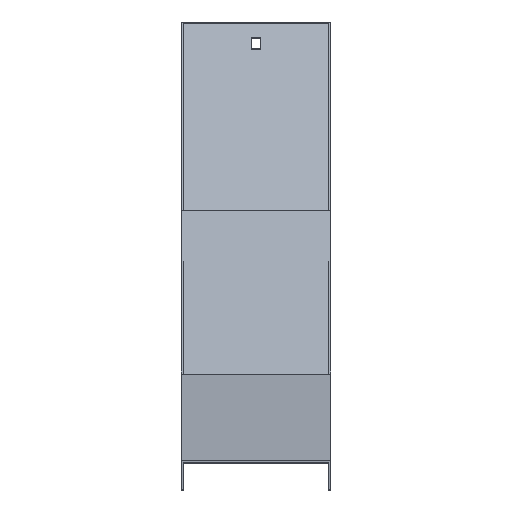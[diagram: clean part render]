
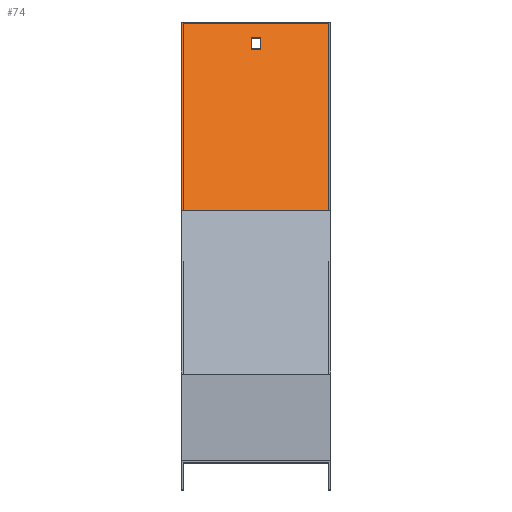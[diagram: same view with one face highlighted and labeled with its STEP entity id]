
A CAD part, top view. The second image highlights one B-rep face of the part: STEP entity #74.
In plain terms, the highlighted planar face has unit normal (0, 0.5, 0.866).
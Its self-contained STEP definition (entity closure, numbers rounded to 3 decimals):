
#2 = VECTOR ( 'NONE', #848, 1000. ) ;
#6 = CARTESIAN_POINT ( 'NONE',  ( 51.5, 173.228, -449.839 ) ) ;
#8 = LINE ( 'NONE', #311, #499 ) ;
#16 = CARTESIAN_POINT ( 'NONE',  ( -51.5, 173.228, -449.839 ) ) ;
#19 = EDGE_CURVE ( 'NONE', #793, #835, #804, .T. ) ;
#29 = DIRECTION ( 'NONE',  ( 0., -0.866, 0.5 ) ) ;
#39 = ORIENTED_EDGE ( 'NONE', *, *, #647, .F. ) ;
#42 = VERTEX_POINT ( 'NONE', #433 ) ;
#51 = VECTOR ( 'NONE', #196, 1000. ) ;
#74 = ADVANCED_FACE ( 'NONE', ( #315, #940 ), #616, .T. ) ;
#91 = DIRECTION ( 'NONE',  ( -1., 0., 0. ) ) ;
#93 = LINE ( 'NONE', #390, #379 ) ;
#98 = LINE ( 'NONE', #779, #2 ) ;
#109 = LINE ( 'NONE', #640, #475 ) ;
#113 = CARTESIAN_POINT ( 'NONE',  ( 51.5, 173.228, -449.839 ) ) ;
#118 = CARTESIAN_POINT ( 'NONE',  ( 3.25, 284.772, -514.239 ) ) ;
#124 = CARTESIAN_POINT ( 'NONE',  ( 3.25, 284.772, -514.239 ) ) ;
#175 = DIRECTION ( 'NONE',  ( 0., -0.866, 0.5 ) ) ;
#196 = DIRECTION ( 'NONE',  ( 0., 0.866, -0.5 ) ) ;
#241 = EDGE_CURVE ( 'NONE', #464, #966, #736, .T. ) ;
#311 = CARTESIAN_POINT ( 'NONE',  ( 3.25, 292.566, -518.739 ) ) ;
#315 = FACE_BOUND ( 'NONE', #571, .T. ) ;
#328 = DIRECTION ( 'NONE',  ( 1., 0., 0. ) ) ;
#334 = VECTOR ( 'NONE', #328, 1000. ) ;
#347 = ORIENTED_EDGE ( 'NONE', *, *, #894, .F. ) ;
#379 = VECTOR ( 'NONE', #710, 1000. ) ;
#390 = CARTESIAN_POINT ( 'NONE',  ( 51.5, 173.228, -449.839 ) ) ;
#433 = CARTESIAN_POINT ( 'NONE',  ( 51.5, 302.958, -524.739 ) ) ;
#464 = VERTEX_POINT ( 'NONE', #16 ) ;
#466 = EDGE_CURVE ( 'NONE', #844, #42, #93, .T. ) ;
#470 = CARTESIAN_POINT ( 'NONE',  ( 51.5, 173.228, -449.839 ) ) ;
#475 = VECTOR ( 'NONE', #29, 1000. ) ;
#477 = ORIENTED_EDGE ( 'NONE', *, *, #550, .T. ) ;
#498 = CARTESIAN_POINT ( 'NONE',  ( -51.5, 173.228, -449.839 ) ) ;
#499 = VECTOR ( 'NONE', #91, 1000. ) ;
#545 = VERTEX_POINT ( 'NONE', #620 ) ;
#550 = EDGE_CURVE ( 'NONE', #42, #966, #98, .T. ) ;
#571 = EDGE_LOOP ( 'NONE', ( #891, #347, #888, #982 ) ) ;
#616 = PLANE ( 'NONE',  #743 ) ;
#620 = CARTESIAN_POINT ( 'NONE',  ( -3.25, 284.772, -514.239 ) ) ;
#640 = CARTESIAN_POINT ( 'NONE',  ( -3.25, 284.772, -514.239 ) ) ;
#645 = CARTESIAN_POINT ( 'NONE',  ( -3.25, 292.566, -518.739 ) ) ;
#647 = EDGE_CURVE ( 'NONE', #844, #464, #782, .T. ) ;
#670 = VECTOR ( 'NONE', #813, 1000. ) ;
#708 = DIRECTION ( 'NONE',  ( -1., 0., 0. ) ) ;
#710 = DIRECTION ( 'NONE',  ( 0., 0.866, -0.5 ) ) ;
#725 = EDGE_CURVE ( 'NONE', #835, #895, #8, .T. ) ;
#736 = LINE ( 'NONE', #498, #670 ) ;
#743 = AXIS2_PLACEMENT_3D ( 'NONE', #6, #860, #175 ) ;
#766 = ORIENTED_EDGE ( 'NONE', *, *, #466, .T. ) ;
#769 = EDGE_LOOP ( 'NONE', ( #933, #39, #766, #477 ) ) ;
#779 = CARTESIAN_POINT ( 'NONE',  ( 51.5, 302.958, -524.739 ) ) ;
#782 = LINE ( 'NONE', #470, #832 ) ;
#786 = CARTESIAN_POINT ( 'NONE',  ( 3.25, 284.772, -514.239 ) ) ;
#793 = VERTEX_POINT ( 'NONE', #786 ) ;
#797 = CARTESIAN_POINT ( 'NONE',  ( 3.25, 292.566, -518.739 ) ) ;
#804 = LINE ( 'NONE', #118, #51 ) ;
#813 = DIRECTION ( 'NONE',  ( 0., 0.866, -0.5 ) ) ;
#832 = VECTOR ( 'NONE', #708, 1000. ) ;
#833 = CARTESIAN_POINT ( 'NONE',  ( -51.5, 302.958, -524.739 ) ) ;
#835 = VERTEX_POINT ( 'NONE', #797 ) ;
#844 = VERTEX_POINT ( 'NONE', #113 ) ;
#848 = DIRECTION ( 'NONE',  ( -1., 0., 0. ) ) ;
#860 = DIRECTION ( 'NONE',  ( 0., 0.5, 0.866 ) ) ;
#880 = LINE ( 'NONE', #124, #334 ) ;
#888 = ORIENTED_EDGE ( 'NONE', *, *, #930, .F. ) ;
#891 = ORIENTED_EDGE ( 'NONE', *, *, #19, .F. ) ;
#894 = EDGE_CURVE ( 'NONE', #545, #793, #880, .T. ) ;
#895 = VERTEX_POINT ( 'NONE', #645 ) ;
#930 = EDGE_CURVE ( 'NONE', #895, #545, #109, .T. ) ;
#933 = ORIENTED_EDGE ( 'NONE', *, *, #241, .F. ) ;
#940 = FACE_OUTER_BOUND ( 'NONE', #769, .T. ) ;
#966 = VERTEX_POINT ( 'NONE', #833 ) ;
#982 = ORIENTED_EDGE ( 'NONE', *, *, #725, .F. ) ;
